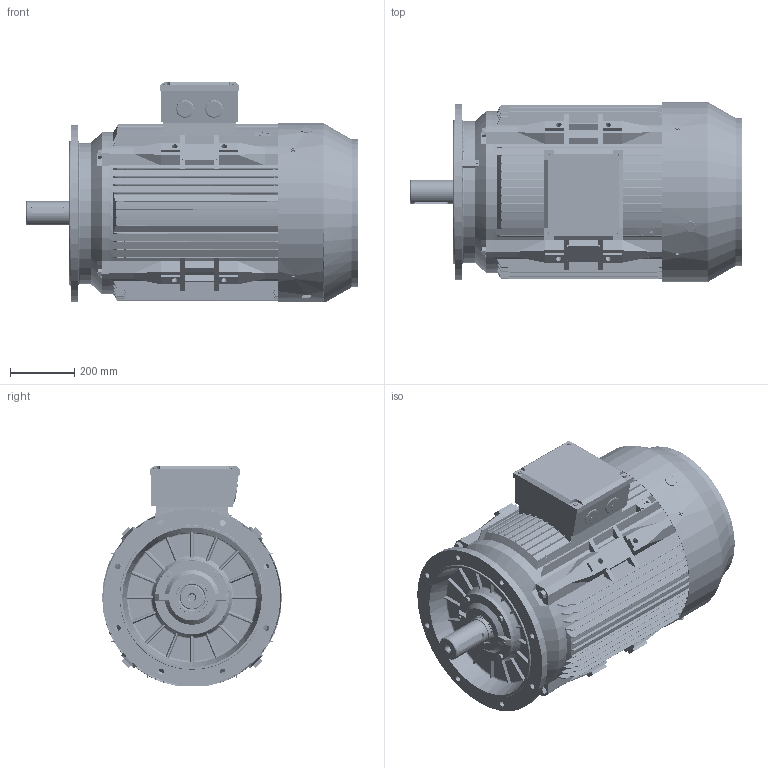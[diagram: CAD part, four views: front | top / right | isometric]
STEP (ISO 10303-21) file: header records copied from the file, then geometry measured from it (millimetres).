
FILE_DESCRIPTION (( 'STEP AP203' ), '1' );
FILE_NAME ('TC 280M B5 外形图.STEP', '2013-02-28T07:27:26', ( '微软用户' ), ( '微软中国' ), 'SwSTEP 2.0', 'SolidWorks 2008', '' );
FILE_SCHEMA (( 'CONFIG_CONTROL_DESIGN' ));
Products named in the file (22): M16-50_默认; TC 280-4 转子_默认; TC 280 轴承外盖NDE_默认; TC 280M接线盒盖_默认; TC 280 风罩_默认; 螺塞M50_默认; M8-20_默认; TC 280M B5 俋倛芞; TC 280M B5机座_默认; TC280 B3后端盖(170)_默认; TC 280 轴承外盖DE_默认; TC 280-4P转轴_默认; 6316_默认; 油封80-100-10_默认; TC 280M接线盒座_默认; M10-80_默认; 10_默认; 16_默认; M8-12_默认; 扣塞_默认; 铜油嘴_默认; TC 280 B5法兰_默认
Assembly tree (41 placements, depth 3):
  TC 280M B5 俋倛芞
    M8-20_默认  x4
    TC 280 B5法兰_默认
    16_默认  x4
    TC 280M接线盒盖_默认
    M10-80_默认  x4
    TC280 B3后端盖(170)_默认
    10_默认  x4
    M8-12_默认  x4
    TC 280 轴承外盖DE_默认
    M16-50_默认  x4
    TC 280M B5机座_默认
    螺塞M50_默认  x2
    TC 280 轴承外盖NDE_默认
    TC 280-4 转子_默认
      TC 280-4P转轴_默认
      6316_默认  x2
    扣塞_默认
    TC 280M接线盒座_默认
    油封80-100-10_默认
    TC 280 风罩_默认
    铜油嘴_默认
Bounding box: 1032.2 x 559 x 683.18 mm (x, y, z)
Volume: 37907911.2 mm3; surface area: 7062718.7 mm2
Topology: 41 solids, 42 shells, 9819 faces, 28818 edges, 19077 vertices
Faces by surface type: plane 4886, cylinder 4227, cone 298, torus 231, bspline 115, sphere 62
Entity records: 330851 total; most frequent: CARTESIAN_POINT 73024, ORIENTED_EDGE 54320, DIRECTION 52686, EDGE_CURVE 27160, VERTEX_POINT 18020, AXIS2_PLACEMENT_3D 17954, LINE 16778, VECTOR 16778
